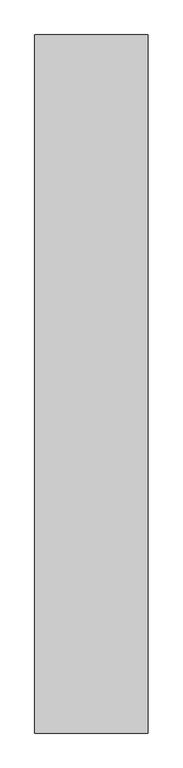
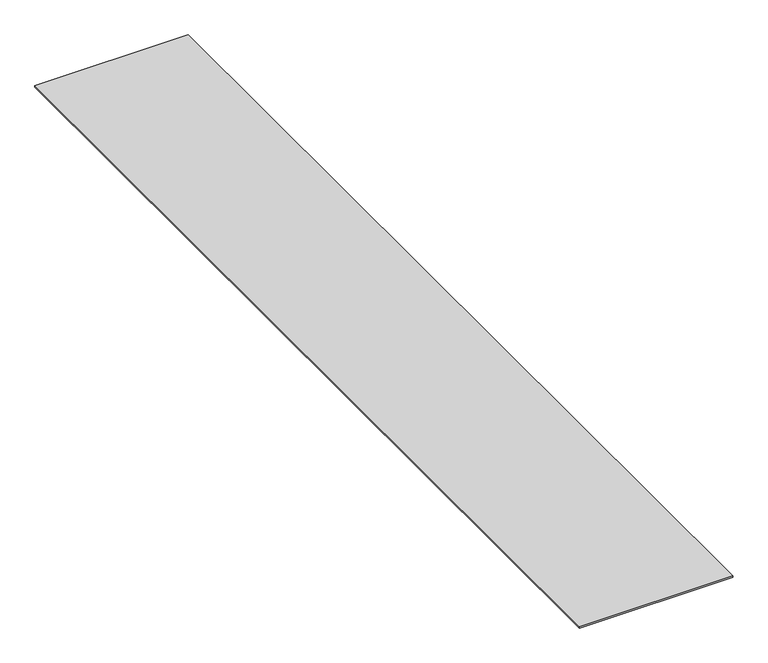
"""IFC4 building model written with IfcOpenShell, lengths in millimetres: proxy geometry, Cable_Ladder_Cover_TEFV-_Fibertrav : Fibertrav TEFV 12 3M."""

from ifc_helpers import new_model, si_unit, origin, origin_with_axes, place, context, project, spatial, polyline, outline, extrude, source, transform, mapped, element, save


def generic_models_482fbde5(model_context):
    return source(origin(), model_context, "Body", "SweptSolid", [
        extrude(outline(polyline([(152.4, 0.0), (-152.4, 0.0), (-152.4, 1879.6), (152.4, 1879.6), (152.4, 0.0)])), origin_with_axes(), (0.0, 0.0, 1.0), 3.0),
    ])


if __name__ == "__main__":
    model = new_model("IFC4")
    model_context = context("Model", 3, world=origin())
    ifc_project = project(units=[si_unit("LENGTHUNIT", "METRE", prefix="MILLI")], contexts=[model_context])
    site = spatial("IfcSite", under=ifc_project)
    building = spatial("IfcBuilding", under=site)
    placement = place(None, origin())
    generic_models_shape = generic_models_482fbde5(model_context)
    element("IfcBuildingElementProxy", 1, Name="Cable_Ladder_Cover_TEFV-_Fibertrav : Fibertrav TEFV 12 3M", ObjectType="Cable_Ladder_Cover_TEFV-_Fibertrav : Fibertrav TEFV 12 3M", at=placement, inside=building, context=model_context, shape_type="MappedRepresentation", body=[
        mapped(generic_models_shape, transform((0.0, 0.0, 0.0), x_axis=(1.0, 0.0, 0.0), y_axis=(0.0, 1.0, 0.0), z_axis=(0.0, 0.0, 1.0))),
    ])
    save(model, "model.ifc")
